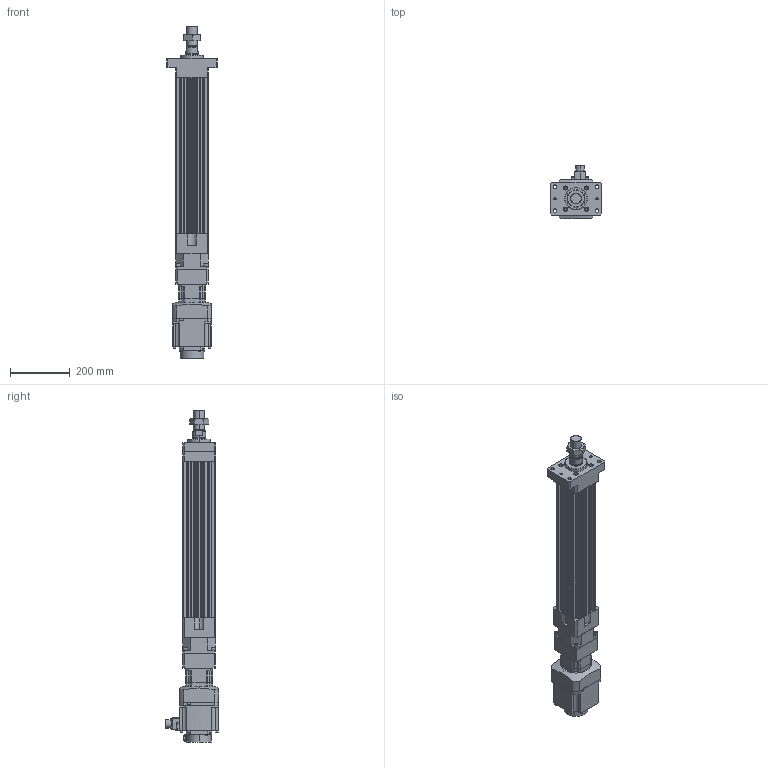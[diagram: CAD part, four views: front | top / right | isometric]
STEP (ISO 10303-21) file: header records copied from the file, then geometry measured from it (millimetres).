
FILE_DESCRIPTION (( 'STEP AP203' ), '1' );
FILE_NAME ('HES110NS(HS)-S350-W010G00-M-FM.STEP', '2023-01-27T07:19:15', ( 'tms' ), ( '' ), 'SwSTEP 2.0', 'SolidWorks 2013', '' );
FILE_SCHEMA (( 'CONFIG_CONTROL_DESIGN' ));
Length unit declared in the file: millimetre
Products named in the file (8): P0401301004; HG-SR102; M36X1.5P; HES110-S350-G090-FM; AB0901; AB090-003[HG-SR102B]; HES110 ROD M ST350; HES110NS(HS)-S350-W010G00-M-FM
Assembly tree (7 placements, depth 3):
  HES110NS(HS)-S350-W010G00-M-FM
    HES110-S350-G090-FM
    HES110 ROD M ST350
    M36X1.5P
    AB090-003[HG-SR102B]
      AB0901
      P0401301004
    HG-SR102
Bounding box: 170 x 177.49 x 1108.5 mm (x, y, z)
Volume: 7296458.1 mm3; surface area: 971505.1 mm2
Topology: 4 solids, 15 shells, 1165 faces, 2950 edges, 1921 vertices
Faces by surface type: plane 558, cylinder 523, cone 72, bspline 8, torus 4
Entity records: 37081 total; most frequent: CARTESIAN_POINT 7224, DIRECTION 6367, ORIENTED_EDGE 5848, EDGE_CURVE 2934, AXIS2_PLACEMENT_3D 2335, VERTEX_POINT 1921, LINE 1697, VECTOR 1697
